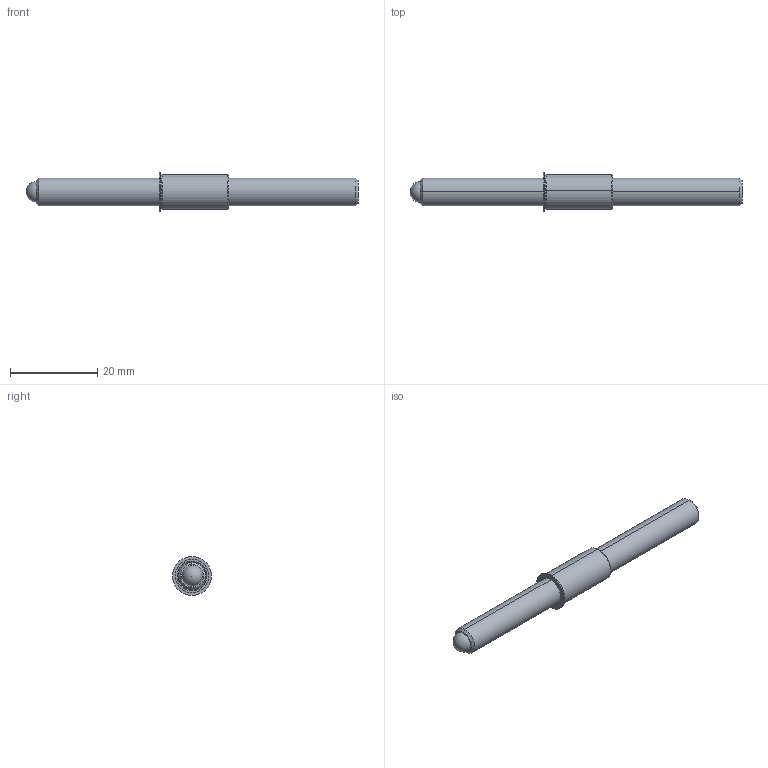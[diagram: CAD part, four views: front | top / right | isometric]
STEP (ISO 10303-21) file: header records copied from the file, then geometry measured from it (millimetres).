
FILE_DESCRIPTION (( 'STEP AP214' ), '1' );
FILE_NAME ('TSB250-80-3000_625-AA.STEP', '2013-03-14T13:05:26', ( 'workpc' ), ( 'Microsoft' ), 'SwSTEP 2.0', 'SolidWorks 2013', '' );
FILE_SCHEMA (( 'AUTOMOTIVE_DESIGN' ));
Length unit declared in the file: inch
Products named in the file (1): TSB250-80-3000_625-AA
Bounding box: 76.2 x 8.92 x 8.92 mm (x, y, z)
Surface area: 2052.8 mm2 (no closed solid volume)
Topology: 0 solids, 3 shells, 33 faces, 77 edges, 49 vertices
Faces by surface type: cone 12, plane 11, cylinder 8, sphere 2
Entity records: 1358 total; most frequent: DIRECTION 174, CARTESIAN_POINT 152, ORIENTED_EDGE 132, EDGE_CURVE 72, AXIS2_PLACEMENT_3D 68, VERTEX_POINT 46, VECTOR 38, EDGE_LOOP 38
